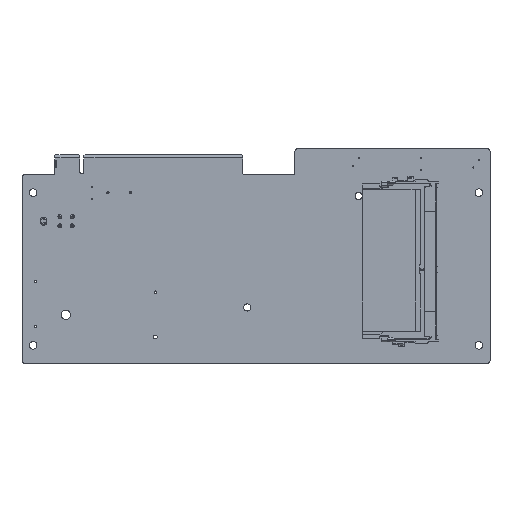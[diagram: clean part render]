
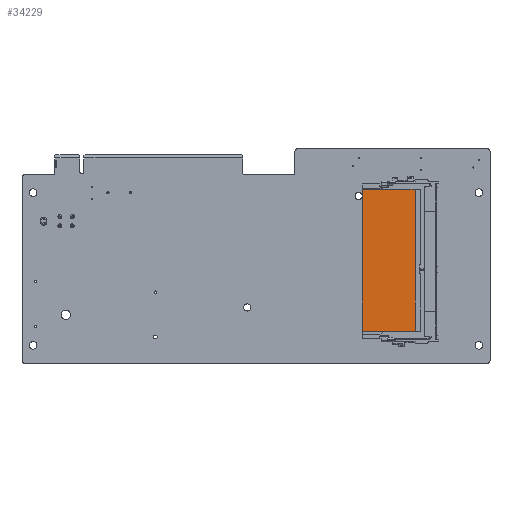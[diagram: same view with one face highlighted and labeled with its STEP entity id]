
A CAD part, front view. The second image highlights one B-rep face of the part: STEP entity #34229.
In plain terms, the highlighted planar face has unit normal (0, -1, 0).
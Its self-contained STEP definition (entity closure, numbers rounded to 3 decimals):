
#20917=DIRECTION('',(0.,0.,-1.));
#20918=VECTOR('',#20917,23.74);
#20919=CARTESIAN_POINT('',(-32.4,-1.4,-6.26));
#20920=LINE('',#20919,#20918);
#20921=DIRECTION('',(-1.,0.,0.));
#20922=VECTOR('',#20921,63.7);
#20923=CARTESIAN_POINT('',(31.3,-1.4,-6.26));
#20924=LINE('',#20923,#20922);
#20925=DIRECTION('',(0.,0.,1.));
#20926=VECTOR('',#20925,23.74);
#20927=CARTESIAN_POINT('',(31.3,-1.4,-30.));
#20928=LINE('',#20927,#20926);
#20929=DIRECTION('',(1.,0.,0.));
#20930=VECTOR('',#20929,63.7);
#20931=CARTESIAN_POINT('',(-32.4,-1.4,-30.));
#20932=LINE('',#20931,#20930);
#23229=CARTESIAN_POINT('',(-32.4,-1.4,-6.26));
#23230=CARTESIAN_POINT('',(-32.4,-1.4,-30.));
#23231=VERTEX_POINT('',#23229);
#23232=VERTEX_POINT('',#23230);
#23233=CARTESIAN_POINT('',(31.3,-1.4,-30.));
#23234=VERTEX_POINT('',#23233);
#23235=CARTESIAN_POINT('',(31.3,-1.4,-6.26));
#23236=VERTEX_POINT('',#23235);
#34216=CARTESIAN_POINT('',(0.,-1.4,0.));
#34217=DIRECTION('',(0.,-1.,0.));
#34218=DIRECTION('',(0.,0.,-1.));
#34219=AXIS2_PLACEMENT_3D('',#34216,#34217,#34218);
#34220=PLANE('',#34219);
#34221=ORIENTED_EDGE('',*,*,#23354,.F.);
#34223=ORIENTED_EDGE('',*,*,#34222,.F.);
#34225=ORIENTED_EDGE('',*,*,#34224,.F.);
#34226=ORIENTED_EDGE('',*,*,#23448,.F.);
#34227=EDGE_LOOP('',(#34221,#34223,#34225,#34226));
#34228=FACE_OUTER_BOUND('',#34227,.F.);
#34229=ADVANCED_FACE('',(#34228),#34220,.T.);
#23354=EDGE_CURVE('',#23231,#23232,#20920,.T.);
#23448=EDGE_CURVE('',#23232,#23234,#20932,.T.);
#34222=EDGE_CURVE('',#23236,#23231,#20924,.T.);
#34224=EDGE_CURVE('',#23234,#23236,#20928,.T.);
